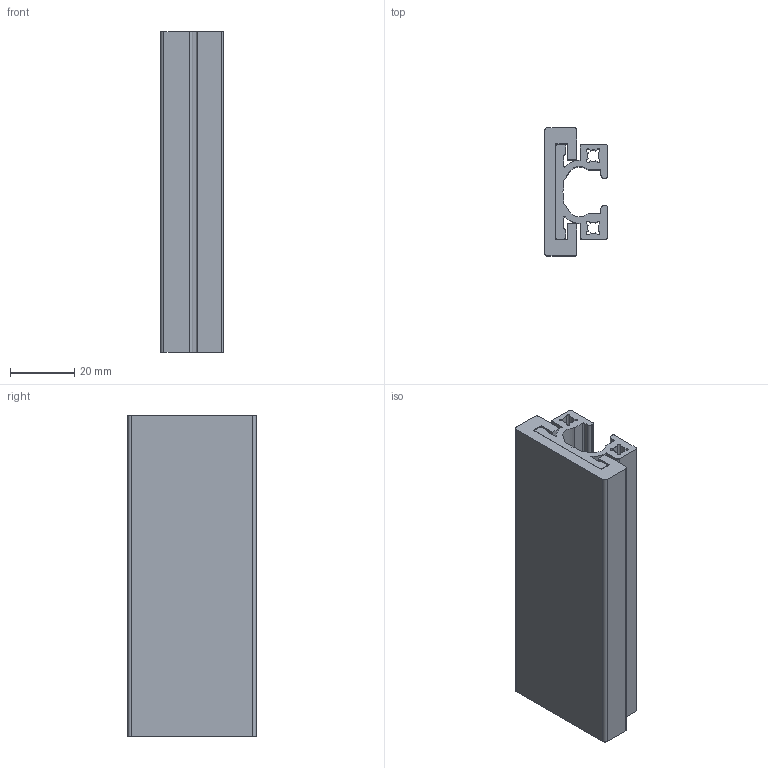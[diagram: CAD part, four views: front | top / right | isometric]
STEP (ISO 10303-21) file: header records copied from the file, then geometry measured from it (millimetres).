
FILE_DESCRIPTION(/* description */ (''),/* implementation_level */ '2;1');
FILE_NAME(/* name */ 'C:\Users\apromt\Desktop\tekeningen\stp\SG1100050001.stp',/* time_stamp */ '2021-11-11T08:49:50+01:00',/* author */ ('APromt'),/* organization */ ('BCK Holland b.v.'),/* preprocessor_version */ 'ST-DEVELOPER v18.1',/* originating_system */ 'Autodesk Inventor 2021',/* authorisation */ '');
FILE_SCHEMA (('AUTOMOTIVE_DESIGN { 1 0 10303 214 3 1 1 }'));
Length unit declared in the file: millimetre
Products named in the file (3): Assembly3; SG1100030001; SG1100040001-01
Assembly tree (2 placements, depth 2):
  Assembly3
    SG1100030001
    SG1100040001-01
Bounding box: 19.5 x 40 x 100 mm (x, y, z)
Volume: 44945.9 mm3; surface area: 32625.1 mm2
Topology: 2 solids, 2 shells, 119 faces, 345 edges, 230 vertices
Faces by surface type: cylinder 60, plane 59
Entity records: 4081 total; most frequent: DIRECTION 713, CARTESIAN_POINT 699, ORIENTED_EDGE 690, EDGE_CURVE 345, AXIS2_PLACEMENT_3D 244, VERTEX_POINT 230, LINE 225, VECTOR 225
